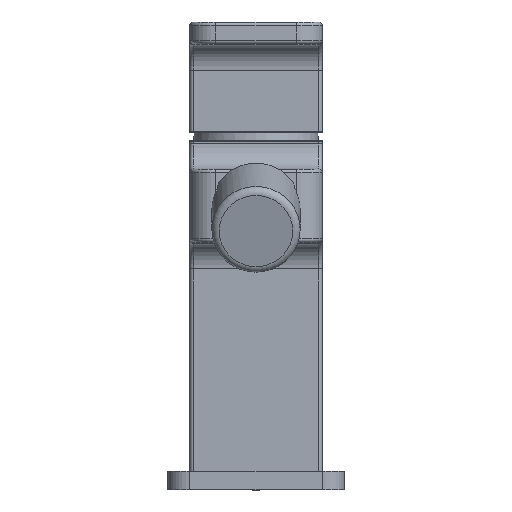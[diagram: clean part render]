
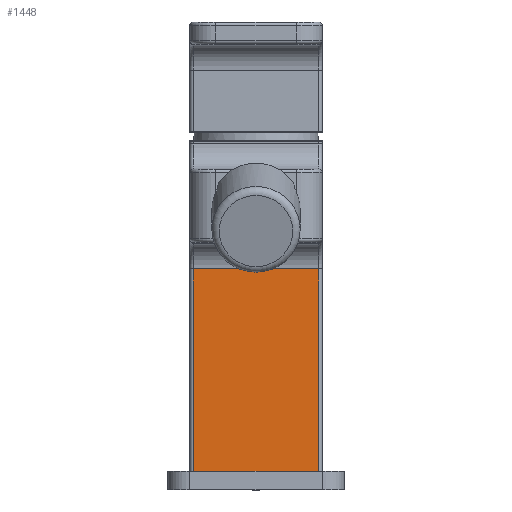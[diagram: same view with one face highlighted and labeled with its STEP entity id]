
A CAD part, top view. The second image highlights one B-rep face of the part: STEP entity #1448.
In plain terms, the highlighted planar face has unit normal (0, 0, 1).
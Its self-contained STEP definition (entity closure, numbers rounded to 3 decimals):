
#85=PLANE('',#1641);
#153=FACE_OUTER_BOUND('',#249,.T.);
#249=EDGE_LOOP('',(#1180,#1181,#1182,#1183));
#330=LINE('',#2414,#430);
#336=LINE('',#2455,#436);
#351=LINE('',#2513,#451);
#352=LINE('',#2515,#452);
#430=VECTOR('',#1910,10.);
#436=VECTOR('',#1962,10.);
#451=VECTOR('',#2039,10.);
#452=VECTOR('',#2042,10.);
#645=VERTEX_POINT('',#2407);
#648=VERTEX_POINT('',#2412);
#659=VERTEX_POINT('',#2449);
#660=VERTEX_POINT('',#2453);
#798=EDGE_CURVE('',#648,#645,#330,.T.);
#819=EDGE_CURVE('',#660,#659,#336,.T.);
#848=EDGE_CURVE('',#659,#648,#351,.T.);
#849=EDGE_CURVE('',#645,#660,#352,.T.);
#1180=ORIENTED_EDGE('',*,*,#819,.F.);
#1181=ORIENTED_EDGE('',*,*,#849,.F.);
#1182=ORIENTED_EDGE('',*,*,#798,.F.);
#1183=ORIENTED_EDGE('',*,*,#848,.F.);
#1448=ADVANCED_FACE('',(#153),#85,.T.);
#1641=AXIS2_PLACEMENT_3D('',#2514,#2040,#2041);
#1910=DIRECTION('',(0.,-1.,0.));
#1962=DIRECTION('',(0.,1.,0.));
#2039=DIRECTION('',(1.,0.,0.));
#2040=DIRECTION('center_axis',(0.,0.,1.));
#2041=DIRECTION('ref_axis',(1.,0.,0.));
#2042=DIRECTION('',(-1.,0.,0.));
#2407=CARTESIAN_POINT('',(17.,5.,18.));
#2412=CARTESIAN_POINT('',(17.,60.,18.));
#2414=CARTESIAN_POINT('',(17.,5.,18.));
#2449=CARTESIAN_POINT('',(-17.,60.,18.));
#2453=CARTESIAN_POINT('',(-17.,5.,18.));
#2455=CARTESIAN_POINT('',(-17.,5.,18.));
#2513=CARTESIAN_POINT('',(18.,60.,18.));
#2514=CARTESIAN_POINT('Origin',(-18.,5.,18.));
#2515=CARTESIAN_POINT('',(18.,5.,18.));
